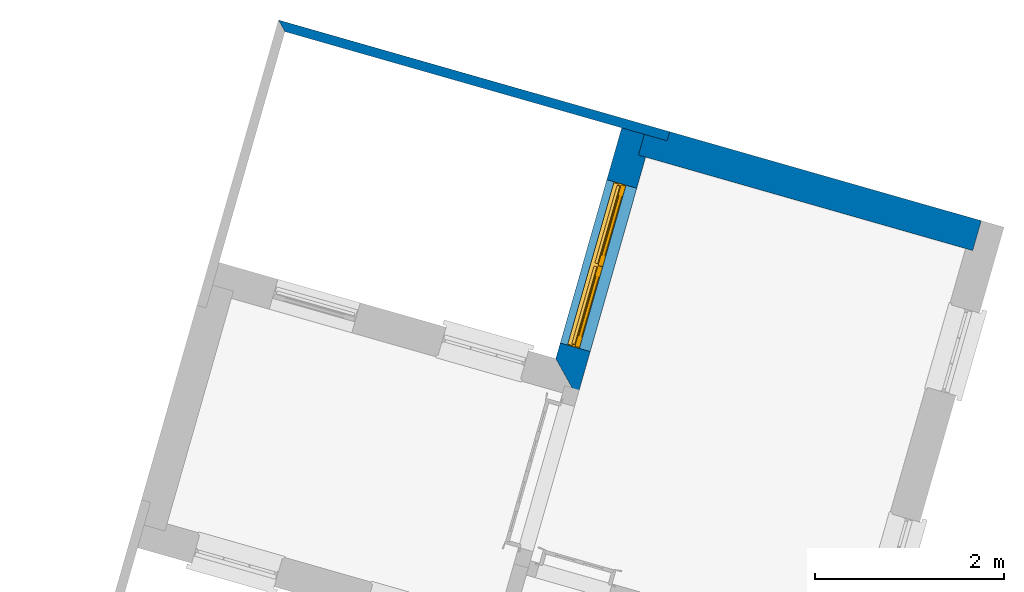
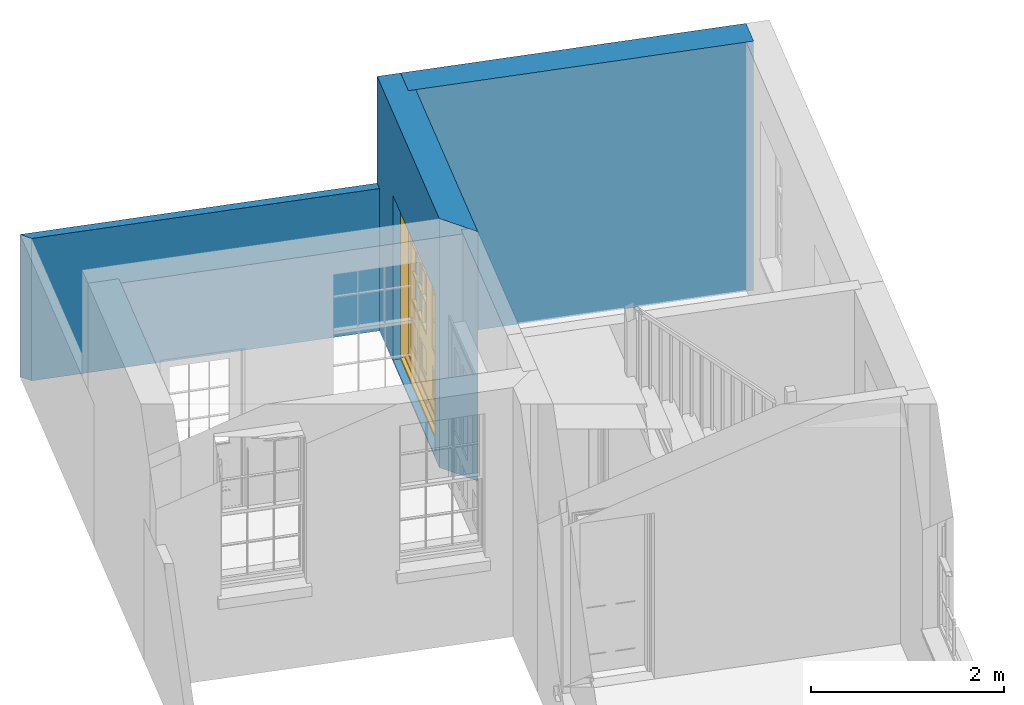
# One storey, part 7 of 7: 3 walls, 1 door, 1 opening.
"""IFC4 building model written with IfcOpenShell, lengths in metres."""

import ifcopenshell
import ifcopenshell.guid

model = None  # the IFC model being written
_history = None  # IfcOwnerHistory: only IFC2X3 demands one
_inside = {}  # id of a spatial element -> (the spatial element, [elements in it])
_under = {}  # id of a project, library or spatial element -> (it, [spatial elements below it])
_declared = {}  # id of a project -> (the project, [libraries it declares])
_typed = {}  # id of a type object -> (the type object, [elements of that type])
_made_of = {}  # id of a material, layer set ... -> (it, [elements and type objects made of it])


def new_model(schema):
    """Start an empty IFC model of exactly this schema.

    Asked for "IFC4X3", IfcOpenShell would pick the latest addendum, in which some entities
    have other attributes; the version numbers below select the first issue.
    IFC2X3 requires an IfcOwnerHistory on every rooted entity: one is made here for all.
    """
    global model, _history
    if schema == "IFC4X3":
        model = ifcopenshell.file(schema_version=(4, 3, 0, 0))
    else:
        model = ifcopenshell.file(schema=schema)
    _inside.clear()
    _under.clear()
    _declared.clear()
    _typed.clear()
    _made_of.clear()
    _history = None
    if model.schema == "IFC2X3":
        org = make("IfcOrganization", Name="unknown")
        user = make(
            "IfcPersonAndOrganization",
            ThePerson=make("IfcPerson", FamilyName="unknown"),
            TheOrganization=org,
        )
        app = make(
            "IfcApplication",
            ApplicationDeveloper=org,
            Version="unknown",
            ApplicationFullName="unknown",
            ApplicationIdentifier="unknown",
        )
        _history = make(
            "IfcOwnerHistory",
            OwningUser=user,
            OwningApplication=app,
            ChangeAction="ADDED",
            CreationDate=0,
        )
    return model


def make(cls, **values):
    """One entity of the class cls with the attributes given. An attribute that is None is left unset."""
    return model.create_entity(
        cls, **{name: value for name, value in values.items() if value is not None}
    )


def rooted(cls, **values):
    """An entity with a GlobalId (a new one), such as an element, a storey or a relation."""
    return make(cls, GlobalId=ifcopenshell.guid.new(), OwnerHistory=_history, **values)


def si_unit(unit_type, name, prefix=None):
    """IfcSIUnit, for example si_unit("LENGTHUNIT", "METRE", prefix="MILLI")."""
    return make("IfcSIUnit", UnitType=unit_type, Prefix=prefix, Name=name)


def assignment(units):
    """IfcUnitAssignment: the units of a project."""
    return None if units is None else make("IfcUnitAssignment", Units=units)


def point(xyz):
    """IfcCartesianPoint."""
    return None if xyz is None else make("IfcCartesianPoint", Coordinates=xyz)


def direction(xyz):
    """IfcDirection."""
    return None if xyz is None else make("IfcDirection", DirectionRatios=xyz)


def frame(location, z_axis=None, x_axis=None):
    """IfcAxis2Placement3D, a coordinate frame: its origin and axes. An axis left out is left unset."""
    return make(
        "IfcAxis2Placement3D",
        Location=point(location),
        Axis=direction(z_axis),
        RefDirection=direction(x_axis),
    )


def origin():
    """The frame at (0, 0, 0) with its axes left unset."""
    return frame((0.0, 0.0, 0.0))


def origin_with_axes():
    """The frame at (0, 0, 0) with the z axis (0, 0, 1) and the x axis (1, 0, 0) written out."""
    return frame((0.0, 0.0, 0.0), z_axis=(0.0, 0.0, 1.0), x_axis=(1.0, 0.0, 0.0))


def place(relative_to, where):
    """IfcLocalPlacement: puts the frame where relative to a parent placement (None: the world)."""
    return make(
        "IfcLocalPlacement", PlacementRelTo=relative_to, RelativePlacement=where
    )


def context(
    kind, dimensions, precision=None, world=None, true_north=None, identifier=None
):
    """IfcGeometricRepresentationContext, for example the 3D "Model" context."""
    return make(
        "IfcGeometricRepresentationContext",
        ContextIdentifier=identifier,
        ContextType=kind,
        CoordinateSpaceDimension=dimensions,
        Precision=precision,
        WorldCoordinateSystem=world,
        TrueNorth=true_north,
    )


def subcontext(parent, identifier, kind, view, scale=None):
    """IfcGeometricRepresentationSubContext, for example "Body" below "Model"."""
    return make(
        "IfcGeometricRepresentationSubContext",
        ContextIdentifier=identifier,
        ContextType=kind,
        ParentContext=parent,
        TargetScale=scale,
        TargetView=view,
    )


def project(units=None, contexts=None):
    """IfcProject with its units and contexts."""
    return rooted(
        "IfcProject",
        Name="project",
        RepresentationContexts=contexts,
        UnitsInContext=assignment(units),
    )


def spatial(cls, under=None, at=None, **own):
    """A site, building, storey or space (cls), placed at a placement, below another one or the project."""
    s = rooted(cls, ObjectPlacement=at, **own)
    if under is not None:
        _under.setdefault(under.id(), (under, []))[1].append(s)
    return s


def polyline(points):
    """IfcPolyline through the points."""
    return make("IfcPolyline", Points=[point(p) for p in points])


def outline(outer, holes=None, kind="AREA"):
    """IfcArbitraryClosedProfileDef: a profile drawn as a closed curve; with holes, ...WithVoids."""
    if holes is None:
        return make("IfcArbitraryClosedProfileDef", ProfileType=kind, OuterCurve=outer)
    return make(
        "IfcArbitraryProfileDefWithVoids",
        ProfileType=kind,
        OuterCurve=outer,
        InnerCurves=holes,
    )


def extrude(swept, where, along, depth):
    """IfcExtrudedAreaSolid: the profile swept, set in the frame where, extruded along a direction by depth."""
    return make(
        "IfcExtrudedAreaSolid",
        SweptArea=swept,
        Position=where,
        ExtrudedDirection=direction(along),
        Depth=depth,
    )


def faces_of(points, faces, orient=None, outer=None):
    """IfcFace entities. A face is a list of loops; a loop is a list of indices into points, from 0.

    orient and outer hold one flag for each loop. By default every Orientation is true, the
    first loop of a face is its IfcFaceOuterBound and the others are IfcFaceBound.
    """
    made = []
    for i, loops in enumerate(faces):
        bounds = []
        for j, loop in enumerate(loops):
            is_outer = j == 0 if outer is None else outer[i][j]
            bounds.append(
                make(
                    "IfcFaceOuterBound" if is_outer else "IfcFaceBound",
                    Bound=make("IfcPolyLoop", Polygon=[points[k] for k in loop]),
                    Orientation=True if orient is None else orient[i][j],
                )
            )
        made.append(make("IfcFace", Bounds=bounds))
    return made


def faceted_brep(points, faces, orient=None, outer=None, voids=None):
    """IfcFacetedBrep: a solid bounded by flat faces; with voids (closed shells), ...WithVoids."""
    shared = [point(p) for p in points]
    hull = make("IfcClosedShell", CfsFaces=faces_of(shared, faces, orient, outer))
    if voids is None:
        return make("IfcFacetedBrep", Outer=hull)
    return make(
        "IfcFacetedBrepWithVoids",
        Outer=hull,
        Voids=[
            make(cls, CfsFaces=faces_of(shared, fs, o, b)) for cls, fs, o, b in voids
        ],
    )


def shape(context_of_items, identifier, shape_type, items):
    """IfcShapeRepresentation: the items that make up one representation, for example the "Body"."""
    return make(
        "IfcShapeRepresentation",
        ContextOfItems=context_of_items,
        RepresentationIdentifier=identifier,
        RepresentationType=shape_type,
        Items=items,
    )


def source(mapping_origin, context_of_items, identifier, shape_type, items):
    """IfcRepresentationMap: a shape defined once, which mapped items show again and again."""
    return make(
        "IfcRepresentationMap",
        MappingOrigin=mapping_origin,
        MappedRepresentation=shape(context_of_items, identifier, shape_type, items),
    )


def transform(
    local_origin,
    x_axis=None,
    y_axis=None,
    z_axis=None,
    scale=None,
    scale2=None,
    scale3=None,
    uniform=True,
):
    """IfcCartesianTransformationOperator3D, or its non-uniform kind. x_axis, y_axis, z_axis: its Axis1, 2, 3."""
    if uniform:
        return make(
            "IfcCartesianTransformationOperator3D",
            Axis1=direction(x_axis),
            Axis2=direction(y_axis),
            LocalOrigin=point(local_origin),
            Scale=scale,
            Axis3=direction(z_axis),
        )
    return make(
        "IfcCartesianTransformationOperator3DnonUniform",
        Axis1=direction(x_axis),
        Axis2=direction(y_axis),
        LocalOrigin=point(local_origin),
        Scale=scale,
        Axis3=direction(z_axis),
        Scale2=scale2,
        Scale3=scale3,
    )


def mapped(mapping_source, mapping_target):
    """IfcMappedItem: shows the shape of a source again, moved by a transform."""
    return make(
        "IfcMappedItem", MappingSource=mapping_source, MappingTarget=mapping_target
    )


def material(Name=None, Category=None):
    """IfcMaterial."""
    return make("IfcMaterial", Name=Name, Category=Category)


def layer(
    of_material, thickness, ventilated=None, Name=None, Category=None, Priority=None
):
    """IfcMaterialLayer: one layer of a wall or slab, of a material (None: an air gap)."""
    return make(
        "IfcMaterialLayer",
        Material=of_material,
        LayerThickness=thickness,
        IsVentilated=ventilated,
        Name=Name,
        Category=Category,
        Priority=Priority,
    )


def layer_set(layers, Name=None):
    """IfcMaterialLayerSet."""
    return make("IfcMaterialLayerSet", MaterialLayers=layers, LayerSetName=Name)


def layer_usage(for_layer_set, set_direction, sense, offset, extent=None):
    """IfcMaterialLayerSetUsage: how a layer set lies in its element."""
    return make(
        "IfcMaterialLayerSetUsage",
        ForLayerSet=for_layer_set,
        LayerSetDirection=set_direction,
        DirectionSense=sense,
        OffsetFromReferenceLine=offset,
        ReferenceExtent=extent,
    )


def made_of(thing, what):
    """Note that an element or type object is made of a material, layer set ...; save() writes the relation."""
    if what is not None:
        _made_of.setdefault(what.id(), (what, []))[1].append(thing)
    return thing


def type_object(cls, material=None, **own):
    """A type object (cls), such as IfcWallType, which elements share."""
    return made_of(rooted(cls, **own), material)


def type_shapes(of_type, sources):
    """Give a type object the sources (RepresentationMaps) that its elements show as mapped items."""
    of_type.RepresentationMaps = sources


def element(
    cls,
    number,
    at=None,
    inside=None,
    cuts=None,
    type_object=None,
    material=None,
    context=None,
    identifier="Body",
    shape_type=None,
    held_by="IfcProductDefinitionShape",
    body=None,
    shapes=None,
    **own,
):
    """One element of the class cls, such as IfcWall. Its Tag is "e" and its number.

    at: its placement. inside: the storey or other place that contains it. cuts: it is an
    opening in that element (IfcRelVoidsElement). A single representation is given by context,
    identifier, shape_type and body (its items); several are given by shapes. held_by: the class
    of the entity that holds the representations. save() writes the other relations.
    """
    e = rooted(cls, Tag="e%d" % number, ObjectPlacement=at, **own)
    if body is not None:
        shapes = [shape(context, identifier, shape_type, body)]
    if shapes is not None:
        e.Representation = make(held_by, Representations=shapes)
    if inside is not None:
        _inside.setdefault(inside.id(), (inside, []))[1].append(e)
    if cuts is not None:
        rooted(
            "IfcRelVoidsElement", RelatingBuildingElement=cuts, RelatedOpeningElement=e
        )
    if type_object is not None:
        _typed.setdefault(type_object.id(), (type_object, []))[1].append(e)
    return made_of(e, material)


def fill(opening, filler):
    """IfcRelFillsElement: the door or window that sits in an opening."""
    return rooted(
        "IfcRelFillsElement",
        RelatingOpeningElement=opening,
        RelatedBuildingElement=filler,
    )


def aggregate(whole, parts):
    """IfcRelAggregates: a whole, such as a stair, and the parts it consists of."""
    return rooted("IfcRelAggregates", RelatingObject=whole, RelatedObjects=parts)


def save(model, path):
    """Write the relations noted so far, then the file.

    IfcRelAggregates (storeys below a building ...), IfcRelContainedInSpatialStructure (elements
    in a storey), IfcRelDefinesByType, IfcRelAssociatesMaterial and IfcRelDeclares: one each for
    every whole, place, type object, material and project.
    """
    for whole, parts in _under.values():
        aggregate(whole, parts)
    for where, things in _inside.values():
        rooted(
            "IfcRelContainedInSpatialStructure",
            RelatedElements=things,
            RelatingStructure=where,
        )
    for kind, things in _typed.values():
        rooted("IfcRelDefinesByType", RelatedObjects=things, RelatingType=kind)
    for what, things in _made_of.values():
        rooted("IfcRelAssociatesMaterial", RelatedObjects=things, RelatingMaterial=what)
    for by, libraries in _declared.values():
        rooted("IfcRelDeclares", RelatingContext=by, RelatedDefinitions=libraries)
    model.write(path)


model = new_model("IFC4")

# Units and contexts
model_context = context("Model", 3, world=origin_with_axes())
body_context = subcontext(model_context, "Body", "Model", "MODEL_VIEW")
ifc_project = project(units=[si_unit("PLANEANGLEUNIT", "RADIAN"), si_unit("MASSUNIT", "GRAM", prefix="KILO"), si_unit("FORCEUNIT", "NEWTON", prefix="KILO"), si_unit("LENGTHUNIT", "METRE"), si_unit("AREAUNIT", "SQUARE_METRE"), si_unit("VOLUMEUNIT", "CUBIC_METRE")], contexts=[model_context, model_context])

# Sites, building, storey
site_1_placement = place(None, origin_with_axes())
site_1 = spatial("IfcSite", under=ifc_project, at=site_1_placement, Name="Tamar")
site_2_placement = place(site_1_placement, origin_with_axes())
site_2 = spatial("IfcSite", under=site_1, at=site_2_placement, Name="Site plot-20", CompositionType="ELEMENT")
building_placement = place(None, origin_with_axes())
building = spatial("IfcBuilding", under=site_2, at=building_placement, Name="Building plot-20", CompositionType="ELEMENT")
storey_placement = place(None, frame((0.0, 0.0, 26.0), z_axis=(0.0, 0.0, 1.0), x_axis=(1.0, 0.0, 0.0)))
storey = spatial("IfcBuildingStorey", under=building, at=storey_placement, Name="plot-20 0", CompositionType="ELEMENT", Elevation=26.0)

# Wall, opening, door
ifc_material_1 = material(Name="Masonry")
ifc_layer_1 = layer(ifc_material_1, 0.33, ventilated=False)
ifc_layer_set_1 = layer_set([ifc_layer_1], Name="exterior_0.08_0.25")
ifc_layer_usage_1 = layer_usage(ifc_layer_set_1, "AXIS2", "POSITIVE", -0.25)
wall_type_1 = type_object("IfcWallType", Name="exterior_0.08_0.25", PredefinedType="SOLIDWALL", material=ifc_layer_set_1)
wall_1_placement = place(storey_placement, frame((278.852686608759, 293.884328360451, 0.0), z_axis=(0.0, 0.0, 1.0), x_axis=(-0.274568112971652, -0.961567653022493, 0.0)))
wall_1 = element("IfcWall", 1, at=wall_1_placement, inside=storey, type_object=wall_type_1, material=ifc_layer_usage_1, Name="exterior", context=body_context, shape_type="SweptSolid", body=[
    extrude(outline(polyline([(-0.249999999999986, 0.0799999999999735), (-0.249999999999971, -0.250000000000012), (2.39537764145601, -0.249999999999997), (2.7253776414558, 0.0800000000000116), (-0.249999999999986, 0.0799999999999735)])), origin_with_axes(), (0.0, 0.0, 1.0), 3.15),
])
opening_placement = place(wall_1_placement, frame((0.422688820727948, 0.0, 0.0199999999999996)))
opening = element("IfcOpeningElement", 2, at=opening_placement, cuts=wall_1, Name="My Opening", ObjectType="Opening", context=body_context, shape_type="SweptSolid", body=[
    extrude(outline(polyline([(0.0, -0.269999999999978), (1.79999999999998, -0.269999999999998), (1.80000000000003, 1.09999999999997), (5.19029264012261e-14, 1.09999999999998), (0.0, -0.269999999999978)])), origin_with_axes(), (0.0, 0.0, 1.0), 2.08),
])
door_type = type_object("IfcDoorType", Name="door_panelled_double", OperationType="SINGLE_SWING_LEFT", PredefinedType="NOTDEFINED")
shared_shape = source(origin(), body_context, "Body", "Brep", [
    faceted_brep([(0.545, 0.195, 0.265), (0.745, 0.195, 0.265), (0.745, 0.2, 0.265), (0.545, 0.2, 0.265), (0.745, 0.2, 0.58), (0.545, 0.2, 0.58), (0.545, 0.195, 0.58), (0.515, 0.19, 0.235), (0.775, 0.19, 0.235), (0.745, 0.195, 0.58), (0.515, 0.19, 0.61), (0.515, 0.185, 0.235), (0.775, 0.185, 0.235), (0.775, 0.19, 0.61), (0.515, 0.185, 0.61), (0.785, 0.185, 0.225), (0.505, 0.185, 0.225), (0.775, 0.185, 0.61), (0.505, 0.185, 0.62), (0.785, 0.185, 0.62), (0.505, 0.18, 0.225), (0.785, 0.18, 0.225), (0.505, 0.18, 0.62), (0.785, 0.18, 0.62), (0.883, 0.18, 0.075), (0.898, 0.18, 0.075), (0.405, 0.18, 0.62), (0.405, 0.18, 0.225), (0.027, 0.18, 0.075), (0.785, 0.18, 0.82), (0.125, 0.18, 0.82), (0.405, 0.185, 0.62), (0.405, 0.185, 0.225), (0.898, 0.18, 2.068), (0.027, 0.17, 0.075), (0.883, 0.17, 0.075), (0.125, 0.18, 0.225), (0.012, 0.18, 0.075), (0.785, 0.19, 0.82), (0.125, 0.19, 0.82), (0.125, 0.18, 0.62), (0.125, 0.185, 0.62), (0.395, 0.185, 0.61), (0.395, 0.185, 0.235), (0.125, 0.185, 0.225), (0.785, 0.18, 1.895), (0.027, 0.14, 0.045), (0.883, 0.14, 0.045), (0.558333, 0.19, 0.83), (0.351667, 0.19, 0.83), (0.125, 0.18, 1.895), (0.125, 0.19, 1.895), (0.785, 0.19, 1.895), (0.012, 0.18, 2.068), (0.135, 0.185, 0.61), (0.395, 0.19, 0.61), (0.395, 0.19, 0.235), (0.135, 0.185, 0.235), (0.027, 0.14, 0.027), (0.883, 0.14, 0.027), (0.568333, 0.19, 0.83), (0.558333, 0.22, 0.83), (0.351667, 0.22, 0.83), (0.341667, 0.19, 0.83), (0.135, 0.19, 1.185), (0.135, 0.19, 1.53), (0.775, 0.19, 1.53), (0.775, 0.19, 1.185), (0.135, 0.19, 0.61), (0.365, 0.195, 0.58), (0.365, 0.195, 0.265), (0.135, 0.19, 0.235), (0.568333, 0.19, 1.175), (0.558333, 0.19, 1.175), (0.775, 0.19, 0.83), (0.558333, 0.22, 1.175), (0.785, 0.22, 0.82), (0.125, 0.22, 0.82), (0.351667, 0.22, 1.175), (0.351667, 0.19, 1.175), (0.341667, 0.19, 1.175), (0.135, 0.19, 0.83), (0.135, 0.19, 1.175), (0.135, 0.22, 1.185), (0.135, 0.22, 1.53), (0.135, 0.19, 1.54), (0.351667, 0.19, 1.885), (0.558333, 0.19, 1.885), (0.775, 0.22, 1.53), (0.775, 0.22, 1.185), (0.775, 0.19, 1.175), (0.775, 0.19, 1.54), (0.165, 0.195, 0.58), (0.365, 0.2, 0.58), (0.365, 0.2, 0.265), (0.165, 0.195, 0.265), (0.568333, 0.22, 0.83), (0.568333, 0.22, 1.175), (0.568333, 0.19, 1.185), (0.558333, 0.19, 1.185), (0.775, 0.22, 0.83), (0.785, 0.23, 0.82), (0.125, 0.23, 0.82), (0.341667, 0.22, 0.83), (0.341667, 0.22, 1.175), (0.351667, 0.19, 1.185), (0.341667, 0.19, 1.185), (0.135, 0.22, 0.83), (0.341667, 0.22, 1.185), (0.125, 0.22, 1.895), (0.341667, 0.22, 1.53), (0.341667, 0.19, 1.53), (0.135, 0.19, 1.885), (0.341667, 0.19, 1.54), (0.341667, 0.19, 1.885), (0.558333, 0.22, 1.885), (0.351667, 0.22, 1.885), (0.568333, 0.19, 1.885), (0.785, 0.22, 1.895), (0.568333, 0.22, 1.185), (0.568333, 0.19, 1.53), (0.568333, 0.22, 1.53), (0.568333, 0.19, 1.54), (0.775, 0.19, 1.885), (0.165, 0.2, 0.58), (0.165, 0.2, 0.265), (0.775, 0.22, 1.175), (0.558333, 0.19, 1.53), (0.351667, 0.22, 1.185), (0.558333, 0.22, 1.185), (0.505, 0.23, 0.62), (0.405, 0.23, 0.62), (0.125, 0.23, 1.895), (0.785, 0.23, 1.895), (0.351667, 0.19, 1.53), (0.135, 0.22, 1.175), (0.135, 0.22, 1.54), (0.341667, 0.22, 1.54), (0.135, 0.22, 1.885), (0.351667, 0.19, 1.54), (0.558333, 0.22, 1.54), (0.558333, 0.19, 1.54), (0.351667, 0.22, 1.54), (0.775, 0.22, 1.54), (0.568333, 0.22, 1.54), (0.775, 0.22, 1.885), (0.558333, 0.22, 1.53), (0.405, 0.23, 0.225), (0.505, 0.23, 0.225), (0.125, 0.23, 0.62), (0.785, 0.23, 0.62), (0.012, 0.23, 2.068), (0.898, 0.23, 2.068), (0.351667, 0.22, 1.53), (0.341667, 0.22, 1.885), (0.568333, 0.22, 1.885), (0.405, 0.225, 0.225), (0.405, 0.225, 0.62), (0.505, 0.225, 0.62), (0.505, 0.225, 0.225), (0.898, 0.23, 0.027), (0.012, 0.23, 0.027), (0.125, 0.225, 0.62), (0.785, 0.225, 0.62), (0.395, 0.225, 0.235), (0.395, 0.225, 0.61), (0.125, 0.23, 0.225), (0.125, 0.225, 0.225), (0.515, 0.225, 0.61), (0.515, 0.225, 0.235), (0.785, 0.23, 0.225), (0.785, 0.225, 0.225), (0.135, 0.225, 0.61), (0.775, 0.225, 0.61), (0.135, 0.225, 0.235), (0.395, 0.22, 0.235), (0.395, 0.22, 0.61), (0.515, 0.22, 0.61), (0.515, 0.22, 0.235), (0.775, 0.225, 0.235), (0.135, 0.22, 0.61), (0.775, 0.22, 0.61), (0.135, 0.22, 0.235), (0.365, 0.215, 0.265), (0.365, 0.215, 0.58), (0.545, 0.215, 0.58), (0.545, 0.215, 0.265), (0.775, 0.22, 0.235), (0.165, 0.215, 0.58), (0.745, 0.215, 0.58), (0.165, 0.215, 0.265), (0.365, 0.21, 0.58), (0.365, 0.21, 0.265), (0.545, 0.21, 0.58), (0.545, 0.21, 0.265), (0.745, 0.215, 0.265), (0.165, 0.21, 0.58), (0.745, 0.21, 0.58), (0.165, 0.21, 0.265), (0.745, 0.21, 0.265), (1.775, 0.178, 0.025), (0.025, 0.178, 0.025), (0.025, 0.15, 0.025), (1.775, 0.15, 0.025), (1.79, 0.23, 0.025), (0.01, 0.23, 0.025), (1.79, 0.178, 0.025), (1.8, 0.23, 0.0), (0.0, 0.23, 0.0), (0.01, 0.178, 0.025), (1.79, 0.178, 2.07), (1.79, 0.23, 2.07), (1.775, 0.178, 2.055), (1.8, 0.23, 2.08), (0.01, 0.23, 2.07), (0.0, 0.23, 2.08), (0.01, 0.178, 2.07), (0.025, 0.178, 2.055), (0.0, 0.1, 2.08), (1.8, 0.1, 2.08), (0.01, 0.1, 2.07), (1.79, 0.1, 2.07), (0.01, 0.15, 2.07), (1.79, 0.15, 2.07), (0.0, 0.1, 0.0), (1.8, 0.1, 0.0), (0.01, 0.1, 0.025), (1.79, 0.1, 0.025), (0.01, 0.15, 0.025), (0.025, 0.15, 2.055), (1.79, 0.15, 0.025), (1.775, 0.15, 2.055), (0.898, 0.18, 0.027), (0.012, 0.18, 0.027), (0.883, 0.18, 0.027), (0.027, 0.18, 0.027), (1.435, 0.195, 0.265), (1.635, 0.195, 0.265), (1.635, 0.2, 0.265), (1.435, 0.2, 0.265), (1.635, 0.2, 0.58), (1.435, 0.2, 0.58), (1.435, 0.195, 0.58), (1.405, 0.19, 0.235), (1.665, 0.19, 0.235), (1.635, 0.195, 0.58), (1.405, 0.19, 0.61), (1.405, 0.185, 0.235), (1.665, 0.185, 0.235), (1.665, 0.19, 0.61), (1.405, 0.185, 0.61), (1.675, 0.185, 0.225), (1.395, 0.185, 0.225), (1.665, 0.185, 0.61), (1.395, 0.185, 0.62), (1.675, 0.185, 0.62), (1.395, 0.18, 0.225), (1.675, 0.18, 0.225), (1.395, 0.18, 0.62), (1.675, 0.18, 0.62), (1.773, 0.18, 0.075), (1.788, 0.18, 0.075), (1.295, 0.18, 0.62), (1.295, 0.18, 0.225), (0.917, 0.18, 0.075), (1.675, 0.18, 0.82), (1.015, 0.18, 0.82), (1.295, 0.185, 0.62), (1.295, 0.185, 0.225), (1.788, 0.18, 2.068), (0.917, 0.17, 0.075), (1.773, 0.17, 0.075), (1.015, 0.18, 0.225), (0.902, 0.18, 0.075), (1.675, 0.19, 0.82), (1.015, 0.19, 0.82), (1.015, 0.18, 0.62), (1.015, 0.185, 0.62), (1.285, 0.185, 0.61), (1.285, 0.185, 0.235), (1.015, 0.185, 0.225), (1.675, 0.18, 1.895), (0.917, 0.14, 0.045), (1.773, 0.14, 0.045), (1.448333, 0.19, 0.83), (1.241667, 0.19, 0.83), (1.015, 0.18, 1.895), (1.015, 0.19, 1.895), (1.675, 0.19, 1.895), (0.902, 0.18, 2.068), (1.025, 0.185, 0.61), (1.285, 0.19, 0.61), (1.285, 0.19, 0.235), (1.025, 0.185, 0.235), (0.917, 0.14, 0.027), (1.773, 0.14, 0.027), (1.458333, 0.19, 0.83), (1.448333, 0.22, 0.83), (1.241667, 0.22, 0.83), (1.231667, 0.19, 0.83), (1.025, 0.19, 1.185), (1.025, 0.19, 1.53), (1.665, 0.19, 1.53), (1.665, 0.19, 1.185), (1.025, 0.19, 0.61), (1.255, 0.195, 0.58), (1.255, 0.195, 0.265), (1.025, 0.19, 0.235), (1.458333, 0.19, 1.175), (1.448333, 0.19, 1.175), (1.665, 0.19, 0.83), (1.448333, 0.22, 1.175), (1.675, 0.22, 0.82), (1.015, 0.22, 0.82), (1.241667, 0.22, 1.175), (1.241667, 0.19, 1.175), (1.231667, 0.19, 1.175), (1.025, 0.19, 0.83), (1.025, 0.19, 1.175), (1.025, 0.22, 1.185), (1.025, 0.22, 1.53), (1.025, 0.19, 1.54), (1.241667, 0.19, 1.885), (1.448333, 0.19, 1.885), (1.665, 0.22, 1.53), (1.665, 0.22, 1.185), (1.665, 0.19, 1.175), (1.665, 0.19, 1.54), (1.055, 0.195, 0.58), (1.255, 0.2, 0.58), (1.255, 0.2, 0.265), (1.055, 0.195, 0.265), (1.458333, 0.22, 0.83), (1.458333, 0.22, 1.175), (1.458333, 0.19, 1.185), (1.448333, 0.19, 1.185), (1.665, 0.22, 0.83), (1.675, 0.23, 0.82), (1.015, 0.23, 0.82), (1.231667, 0.22, 0.83), (1.231667, 0.22, 1.175), (1.241667, 0.19, 1.185), (1.231667, 0.19, 1.185), (1.025, 0.22, 0.83), (1.231667, 0.22, 1.185), (1.015, 0.22, 1.895), (1.231667, 0.22, 1.53), (1.231667, 0.19, 1.53), (1.025, 0.19, 1.885), (1.231667, 0.19, 1.54), (1.231667, 0.19, 1.885), (1.448333, 0.22, 1.885), (1.241667, 0.22, 1.885), (1.458333, 0.19, 1.885), (1.675, 0.22, 1.895), (1.458333, 0.22, 1.185), (1.458333, 0.19, 1.53), (1.458333, 0.22, 1.53), (1.458333, 0.19, 1.54), (1.665, 0.19, 1.885), (1.055, 0.2, 0.58), (1.055, 0.2, 0.265), (1.665, 0.22, 1.175), (1.448333, 0.19, 1.53), (1.241667, 0.22, 1.185), (1.448333, 0.22, 1.185), (1.395, 0.23, 0.62), (1.295, 0.23, 0.62), (1.015, 0.23, 1.895), (1.675, 0.23, 1.895), (1.241667, 0.19, 1.53), (1.025, 0.22, 1.175), (1.025, 0.22, 1.54), (1.231667, 0.22, 1.54), (1.025, 0.22, 1.885), (1.241667, 0.19, 1.54), (1.448333, 0.22, 1.54), (1.448333, 0.19, 1.54), (1.241667, 0.22, 1.54), (1.665, 0.22, 1.54), (1.458333, 0.22, 1.54), (1.665, 0.22, 1.885), (1.448333, 0.22, 1.53), (1.295, 0.23, 0.225), (1.395, 0.23, 0.225), (1.015, 0.23, 0.62), (1.675, 0.23, 0.62), (0.902, 0.23, 2.068), (1.788, 0.23, 2.068), (1.241667, 0.22, 1.53), (1.231667, 0.22, 1.885), (1.458333, 0.22, 1.885), (1.295, 0.225, 0.225), (1.295, 0.225, 0.62), (1.395, 0.225, 0.62), (1.395, 0.225, 0.225), (1.788, 0.23, 0.027), (0.902, 0.23, 0.027), (1.015, 0.225, 0.62), (1.675, 0.225, 0.62), (1.285, 0.225, 0.235), (1.285, 0.225, 0.61), (1.015, 0.23, 0.225), (1.015, 0.225, 0.225), (1.405, 0.225, 0.61), (1.405, 0.225, 0.235), (1.675, 0.23, 0.225), (1.675, 0.225, 0.225), (1.025, 0.225, 0.61), (1.665, 0.225, 0.61), (1.025, 0.225, 0.235), (1.285, 0.22, 0.235), (1.285, 0.22, 0.61), (1.405, 0.22, 0.61), (1.405, 0.22, 0.235), (1.665, 0.225, 0.235), (1.025, 0.22, 0.61), (1.665, 0.22, 0.61), (1.025, 0.22, 0.235), (1.255, 0.215, 0.265), (1.255, 0.215, 0.58), (1.435, 0.215, 0.58), (1.435, 0.215, 0.265), (1.665, 0.22, 0.235), (1.055, 0.215, 0.58), (1.635, 0.215, 0.58), (1.055, 0.215, 0.265), (1.255, 0.21, 0.58), (1.255, 0.21, 0.265), (1.435, 0.21, 0.58), (1.435, 0.21, 0.265), (1.635, 0.215, 0.265), (1.055, 0.21, 0.58), (1.635, 0.21, 0.58), (1.055, 0.21, 0.265), (1.635, 0.21, 0.265), (1.788, 0.18, 0.027), (0.902, 0.18, 0.027), (1.773, 0.18, 0.027), (0.917, 0.18, 0.027)], [[[0, 1, 2, 3]], [[2, 4, 5, 3]], [[0, 3, 5, 6]], [[1, 0, 7, 8]], [[9, 4, 2, 1]], [[9, 6, 5, 4]], [[0, 6, 10, 7]], [[8, 7, 11, 12]], [[8, 13, 9, 1]], [[13, 10, 6, 9]], [[7, 10, 14, 11]], [[15, 12, 11, 16]], [[12, 17, 13, 8]], [[17, 14, 10, 13]], [[18, 16, 11, 14]], [[15, 19, 17, 12]], [[15, 16, 20, 21]], [[14, 17, 19, 18]], [[16, 18, 22, 20]], [[21, 23, 19, 15]], [[24, 25, 21, 20]], [[23, 22, 18, 19]], [[20, 22, 26, 27]], [[23, 21, 25]], [[28, 24, 20, 27]], [[22, 23, 29]], [[29, 30, 26, 22]], [[27, 26, 31, 32]], [[23, 25, 33, 29]], [[34, 35, 24, 28]], [[28, 27, 36, 37]], [[38, 39, 30, 29]], [[26, 30, 40]], [[26, 40, 41, 31]], [[42, 43, 32, 31]], [[32, 44, 36, 27]], [[33, 45, 29]], [[46, 47, 35, 34]], [[36, 40, 37]], [[39, 38, 48, 49]], [[50, 30, 39, 51]], [[29, 45, 52, 38]], [[53, 37, 40, 30]], [[44, 41, 40, 36]], [[31, 41, 54, 42]], [[43, 42, 55, 56]], [[57, 44, 32, 43]], [[50, 45, 33, 53]], [[47, 46, 58, 59]], [[60, 48, 38]], [[49, 48, 61, 62]], [[49, 63, 39]], [[50, 53, 30]], [[51, 39, 64, 65]], [[45, 50, 51, 52]], [[66, 67, 38, 52]], [[57, 54, 41, 44]], [[42, 54, 68, 55]], [[56, 55, 69, 70]], [[56, 71, 57, 43]], [[60, 72, 73, 48]], [[60, 38, 74]], [[48, 73, 75, 61]], [[76, 77, 62, 61]], [[62, 78, 79, 49]], [[49, 79, 80, 63]], [[63, 81, 39]], [[82, 64, 39]], [[65, 64, 83, 84]], [[85, 51, 65]], [[52, 51, 86, 87]], [[88, 89, 67, 66]], [[90, 38, 67]], [[91, 66, 52]], [[71, 68, 54, 57]], [[55, 68, 92, 69]], [[69, 93, 94, 70]], [[70, 95, 71, 56]], [[96, 97, 72, 60]], [[73, 72, 98, 99]], [[74, 38, 90]], [[100, 96, 60, 74]], [[75, 73, 79, 78]], [[61, 75, 97, 96]], [[101, 102, 77, 76]], [[77, 103, 62]], [[96, 76, 61]], [[103, 104, 78, 62]], [[80, 79, 105, 106]], [[63, 80, 104, 103]], [[81, 63, 103, 107]], [[81, 82, 39]], [[106, 64, 82, 80]], [[106, 108, 83, 64]], [[84, 83, 77, 109]], [[110, 111, 65, 84]], [[112, 51, 85]], [[113, 85, 65, 111]], [[114, 86, 51]], [[115, 87, 86, 116]], [[117, 52, 87]], [[118, 76, 89, 88]], [[119, 98, 67, 89]], [[120, 121, 88, 66]], [[67, 98, 72, 90]], [[91, 122, 120, 66]], [[91, 52, 123]], [[95, 92, 68, 71]], [[69, 92, 124, 93]], [[94, 93, 124, 125]], [[94, 125, 95, 70]], [[72, 97, 126, 90]], [[127, 99, 98, 120]], [[99, 105, 79, 73]], [[74, 90, 126, 100]], [[96, 100, 76]], [[128, 129, 75, 78]], [[97, 75, 129, 119]], [[130, 131, 102, 101]], [[109, 77, 102, 132]], [[133, 101, 76, 118]], [[77, 107, 103]], [[78, 104, 108, 128]], [[111, 106, 105, 134]], [[104, 80, 82, 135]], [[107, 135, 82, 81]], [[110, 108, 106, 111]], [[104, 135, 83, 108]], [[83, 135, 77]], [[136, 84, 109]], [[110, 84, 136, 137]], [[114, 51, 112]], [[85, 136, 138, 112]], [[113, 137, 136, 85]], [[111, 134, 139, 113]], [[86, 114, 113, 139]], [[140, 141, 87, 115]], [[139, 142, 116, 86]], [[109, 118, 115, 116]], [[117, 123, 52]], [[117, 87, 141, 122]], [[126, 89, 76]], [[143, 118, 88]], [[120, 98, 119, 121]], [[119, 89, 126, 97]], [[144, 143, 88, 121]], [[144, 122, 91, 143]], [[127, 120, 122, 141]], [[143, 91, 123, 145]], [[124, 92, 95, 125]], [[146, 129, 99, 127]], [[99, 129, 128, 105]], [[100, 126, 76]], [[121, 119, 129, 146]], [[147, 131, 130, 148]], [[131, 149, 102]], [[130, 101, 150]], [[102, 151, 132]], [[118, 109, 132, 133]], [[101, 133, 152]], [[107, 77, 135]], [[153, 128, 108, 110]], [[134, 105, 128, 153]], [[109, 138, 136]], [[153, 110, 137, 142]], [[154, 114, 112, 138]], [[137, 113, 114, 154]], [[141, 139, 134, 127]], [[141, 140, 142, 139]], [[144, 140, 115, 155]], [[142, 137, 154, 116]], [[155, 115, 118]], [[116, 154, 109]], [[117, 155, 145, 123]], [[122, 144, 155, 117]], [[143, 145, 118]], [[121, 146, 140, 144]], [[146, 127, 134, 153]], [[156, 157, 131, 147]], [[148, 130, 158, 159]], [[148, 160, 161, 147]], [[157, 162, 149, 131]], [[161, 151, 102, 149]], [[101, 152, 160, 150]], [[163, 158, 130, 150]], [[151, 152, 133, 132]], [[154, 138, 109]], [[142, 140, 146, 153]], [[145, 155, 118]], [[157, 156, 164, 165]], [[147, 166, 167, 156]], [[168, 169, 159, 158]], [[170, 148, 159, 171]], [[148, 170, 160]], [[166, 147, 161]], [[172, 162, 157, 165]], [[166, 149, 162, 167]], [[166, 161, 149]], [[150, 160, 170]], [[163, 173, 168, 158]], [[171, 163, 150, 170]], [[174, 164, 156, 167]], [[175, 176, 165, 164]], [[169, 168, 177, 178]], [[171, 159, 169, 179]], [[167, 162, 172, 174]], [[176, 180, 172, 165]], [[179, 173, 163, 171]], [[181, 177, 168, 173]], [[164, 174, 182, 175]], [[183, 184, 176, 175]], [[178, 177, 185, 186]], [[179, 169, 178, 187]], [[174, 172, 180, 182]], [[184, 188, 180, 176]], [[187, 181, 173, 179]], [[189, 185, 177, 181]], [[175, 182, 190, 183]], [[191, 184, 183, 192]], [[185, 193, 194, 186]], [[187, 178, 186, 195]], [[182, 180, 188, 190]], [[191, 196, 188, 184]], [[195, 189, 181, 187]], [[197, 193, 185, 189]], [[183, 190, 198, 192]], [[198, 196, 191, 192]], [[194, 193, 197, 199]], [[195, 186, 194, 199]], [[188, 196, 198, 190]], [[197, 189, 195, 199]], [[200, 201, 202, 203]], [[201, 200, 204, 205]], [[206, 204, 200]], [[204, 207, 208, 205]], [[209, 201, 205]], [[210, 211, 204, 206]], [[206, 200, 212, 210]], [[211, 213, 207, 204]], [[214, 205, 208, 215]], [[216, 217, 201, 209]], [[205, 214, 216, 209]], [[216, 214, 211, 210]], [[210, 212, 217, 216]], [[214, 215, 213, 211]], [[218, 219, 213, 215]], [[219, 218, 220, 221]], [[221, 220, 222, 223]], [[215, 208, 224, 218]], [[225, 224, 208, 207]], [[224, 226, 220, 218]], [[224, 225, 227, 226]], [[219, 225, 207, 213]], [[228, 222, 220, 226]], [[219, 221, 227, 225]], [[226, 227, 203, 202]], [[202, 229, 222, 228]], [[228, 226, 202]], [[227, 221, 223, 230]], [[230, 203, 227]], [[217, 229, 202, 201]], [[231, 223, 222, 229]], [[230, 223, 231, 203]], [[231, 229, 217, 212]], [[212, 200, 203, 231]], [[33, 152, 151, 53]], [[25, 160, 152, 33]], [[161, 37, 53, 151]], [[232, 160, 25]], [[161, 233, 37]], [[160, 232, 234]], [[24, 234, 232, 25]], [[233, 161, 235]], [[37, 233, 235, 28]], [[161, 160, 234, 235]], [[35, 47, 234, 24]], [[28, 235, 46, 34]], [[58, 235, 234, 59]], [[59, 234, 47]], [[58, 46, 235]], [[236, 237, 238, 239]], [[238, 240, 241, 239]], [[236, 239, 241, 242]], [[237, 236, 243, 244]], [[245, 240, 238, 237]], [[245, 242, 241, 240]], [[236, 242, 246, 243]], [[244, 243, 247, 248]], [[244, 249, 245, 237]], [[249, 246, 242, 245]], [[243, 246, 250, 247]], [[251, 248, 247, 252]], [[248, 253, 249, 244]], [[253, 250, 246, 249]], [[254, 252, 247, 250]], [[251, 255, 253, 248]], [[251, 252, 256, 257]], [[250, 253, 255, 254]], [[252, 254, 258, 256]], [[257, 259, 255, 251]], [[260, 261, 257, 256]], [[259, 258, 254, 255]], [[256, 258, 262, 263]], [[259, 257, 261]], [[264, 260, 256, 263]], [[258, 259, 265]], [[265, 266, 262, 258]], [[263, 262, 267, 268]], [[259, 261, 269, 265]], [[270, 271, 260, 264]], [[264, 263, 272, 273]], [[274, 275, 266, 265]], [[262, 266, 276]], [[262, 276, 277, 267]], [[278, 279, 268, 267]], [[268, 280, 272, 263]], [[269, 281, 265]], [[282, 283, 271, 270]], [[272, 276, 273]], [[275, 274, 284, 285]], [[286, 266, 275, 287]], [[265, 281, 288, 274]], [[289, 273, 276, 266]], [[280, 277, 276, 272]], [[267, 277, 290, 278]], [[279, 278, 291, 292]], [[293, 280, 268, 279]], [[286, 281, 269, 289]], [[283, 282, 294, 295]], [[296, 284, 274]], [[285, 284, 297, 298]], [[285, 299, 275]], [[286, 289, 266]], [[287, 275, 300, 301]], [[281, 286, 287, 288]], [[302, 303, 274, 288]], [[293, 290, 277, 280]], [[278, 290, 304, 291]], [[292, 291, 305, 306]], [[292, 307, 293, 279]], [[296, 308, 309, 284]], [[296, 274, 310]], [[284, 309, 311, 297]], [[312, 313, 298, 297]], [[298, 314, 315, 285]], [[285, 315, 316, 299]], [[299, 317, 275]], [[318, 300, 275]], [[301, 300, 319, 320]], [[321, 287, 301]], [[288, 287, 322, 323]], [[324, 325, 303, 302]], [[326, 274, 303]], [[327, 302, 288]], [[307, 304, 290, 293]], [[291, 304, 328, 305]], [[305, 329, 330, 306]], [[306, 331, 307, 292]], [[332, 333, 308, 296]], [[309, 308, 334, 335]], [[310, 274, 326]], [[336, 332, 296, 310]], [[311, 309, 315, 314]], [[297, 311, 333, 332]], [[337, 338, 313, 312]], [[313, 339, 298]], [[332, 312, 297]], [[339, 340, 314, 298]], [[316, 315, 341, 342]], [[299, 316, 340, 339]], [[317, 299, 339, 343]], [[317, 318, 275]], [[342, 300, 318, 316]], [[342, 344, 319, 300]], [[320, 319, 313, 345]], [[346, 347, 301, 320]], [[348, 287, 321]], [[349, 321, 301, 347]], [[350, 322, 287]], [[351, 323, 322, 352]], [[353, 288, 323]], [[354, 312, 325, 324]], [[355, 334, 303, 325]], [[356, 357, 324, 302]], [[303, 334, 308, 326]], [[327, 358, 356, 302]], [[327, 288, 359]], [[331, 328, 304, 307]], [[305, 328, 360, 329]], [[330, 329, 360, 361]], [[330, 361, 331, 306]], [[308, 333, 362, 326]], [[363, 335, 334, 356]], [[335, 341, 315, 309]], [[310, 326, 362, 336]], [[332, 336, 312]], [[364, 365, 311, 314]], [[333, 311, 365, 355]], [[366, 367, 338, 337]], [[345, 313, 338, 368]], [[369, 337, 312, 354]], [[313, 343, 339]], [[314, 340, 344, 364]], [[347, 342, 341, 370]], [[340, 316, 318, 371]], [[343, 371, 318, 317]], [[346, 344, 342, 347]], [[340, 371, 319, 344]], [[319, 371, 313]], [[372, 320, 345]], [[346, 320, 372, 373]], [[350, 287, 348]], [[321, 372, 374, 348]], [[349, 373, 372, 321]], [[347, 370, 375, 349]], [[322, 350, 349, 375]], [[376, 377, 323, 351]], [[375, 378, 352, 322]], [[345, 354, 351, 352]], [[353, 359, 288]], [[353, 323, 377, 358]], [[362, 325, 312]], [[379, 354, 324]], [[356, 334, 355, 357]], [[355, 325, 362, 333]], [[380, 379, 324, 357]], [[380, 358, 327, 379]], [[363, 356, 358, 377]], [[379, 327, 359, 381]], [[360, 328, 331, 361]], [[382, 365, 335, 363]], [[335, 365, 364, 341]], [[336, 362, 312]], [[357, 355, 365, 382]], [[383, 367, 366, 384]], [[367, 385, 338]], [[366, 337, 386]], [[338, 387, 368]], [[354, 345, 368, 369]], [[337, 369, 388]], [[343, 313, 371]], [[389, 364, 344, 346]], [[370, 341, 364, 389]], [[345, 374, 372]], [[389, 346, 373, 378]], [[390, 350, 348, 374]], [[373, 349, 350, 390]], [[377, 375, 370, 363]], [[377, 376, 378, 375]], [[380, 376, 351, 391]], [[378, 373, 390, 352]], [[391, 351, 354]], [[352, 390, 345]], [[353, 391, 381, 359]], [[358, 380, 391, 353]], [[379, 381, 354]], [[357, 382, 376, 380]], [[382, 363, 370, 389]], [[392, 393, 367, 383]], [[384, 366, 394, 395]], [[384, 396, 397, 383]], [[393, 398, 385, 367]], [[397, 387, 338, 385]], [[337, 388, 396, 386]], [[399, 394, 366, 386]], [[387, 388, 369, 368]], [[390, 374, 345]], [[378, 376, 382, 389]], [[381, 391, 354]], [[393, 392, 400, 401]], [[383, 402, 403, 392]], [[404, 405, 395, 394]], [[406, 384, 395, 407]], [[384, 406, 396]], [[402, 383, 397]], [[408, 398, 393, 401]], [[402, 385, 398, 403]], [[402, 397, 385]], [[386, 396, 406]], [[399, 409, 404, 394]], [[407, 399, 386, 406]], [[410, 400, 392, 403]], [[411, 412, 401, 400]], [[405, 404, 413, 414]], [[407, 395, 405, 415]], [[403, 398, 408, 410]], [[412, 416, 408, 401]], [[415, 409, 399, 407]], [[417, 413, 404, 409]], [[400, 410, 418, 411]], [[419, 420, 412, 411]], [[414, 413, 421, 422]], [[415, 405, 414, 423]], [[410, 408, 416, 418]], [[420, 424, 416, 412]], [[423, 417, 409, 415]], [[425, 421, 413, 417]], [[411, 418, 426, 419]], [[427, 420, 419, 428]], [[421, 429, 430, 422]], [[423, 414, 422, 431]], [[418, 416, 424, 426]], [[427, 432, 424, 420]], [[431, 425, 417, 423]], [[433, 429, 421, 425]], [[419, 426, 434, 428]], [[434, 432, 427, 428]], [[430, 429, 433, 435]], [[431, 422, 430, 435]], [[424, 432, 434, 426]], [[433, 425, 431, 435]], [[269, 388, 387, 289]], [[261, 396, 388, 269]], [[397, 273, 289, 387]], [[436, 396, 261]], [[397, 437, 273]], [[396, 436, 438]], [[260, 438, 436, 261]], [[437, 397, 439]], [[273, 437, 439, 264]], [[397, 396, 438, 439]], [[271, 283, 438, 260]], [[264, 439, 282, 270]], [[294, 439, 438, 295]], [[295, 438, 283]], [[294, 282, 439]]]),
])
type_shapes(door_type, [shared_shape])
door_placement = place(storey_placement, frame((278.477006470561, 293.552017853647, 0.0199999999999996), z_axis=(0.0, 0.0, 1.0), x_axis=(-0.494222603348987, -1.73082177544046, 0.0)))
door = element("IfcDoor", 3, at=door_placement, inside=storey, type_object=door_type, Name="living outside door", OverallHeight=2.08, OverallWidth=1.8, context=body_context, shape_type="MappedRepresentation", body=[
    mapped(shared_shape, transform((0.0, 0.0, 0.0), scale=1.0)),
])
fill(opening, door)

# Walls
ifc_material_2 = material(Name="Masonry")
ifc_layer_2 = layer(ifc_material_2, 0.33, ventilated=False)
ifc_layer_set_2 = layer_set([ifc_layer_2], Name="party_0.08_0.25")
ifc_layer_usage_2 = layer_usage(ifc_layer_set_2, "AXIS2", "POSITIVE", -0.25)
wall_type_2 = type_object("IfcWallType", Name="party_0.08_0.25", PredefinedType="SOLIDWALL", material=ifc_layer_set_2)
wall_2_placement = place(storey_placement, frame((282.397764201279, 292.872059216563, 0.0), z_axis=(0.0, 0.0, 1.0), x_axis=(-0.961567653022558, 0.274568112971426, 0.0)))
element("IfcWall", 4, at=wall_2_placement, inside=storey, type_object=wall_type_2, material=ifc_layer_usage_2, Name="party", context=body_context, shape_type="SweptSolid", body=[
    extrude(outline(polyline([(2.50515300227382e-14, 0.079999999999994), (1.63910976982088e-14, -0.249999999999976), (3.6867687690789, -0.249999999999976), (3.68676876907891, 0.0799999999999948), (2.50515300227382e-14, 0.079999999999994)])), origin_with_axes(), (0.0, 0.0, 1.0), 3.15),
])
ifc_material_3 = material(Name="Masonry")
ifc_layer_3 = layer(ifc_material_3, 0.1, ventilated=False)
ifc_layer_set_3 = layer_set([ifc_layer_3], Name="fence_-0.15_0.25")
ifc_layer_usage_3 = layer_usage(ifc_layer_set_3, "AXIS2", "POSITIVE", -0.25)
wall_type_3 = type_object("IfcWallType", Name="fence_-0.15_0.25", PredefinedType="SOLIDWALL", material=ifc_layer_set_3)
wall_3_placement = place(storey_placement, frame((278.852686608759, 293.884328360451, 0.0), z_axis=(0.0, 0.0, 1.0), x_axis=(-0.961567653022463, 0.274568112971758, 0.0)))
element("IfcWall", 5, at=wall_3_placement, inside=storey, type_object=wall_type_3, material=ifc_layer_usage_3, Name="fence", context=body_context, shape_type="SweptSolid", body=[
    extrude(outline(polyline([(-0.250000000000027, -0.150000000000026), (-0.250000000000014, -0.250000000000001), (4.06323123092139, -0.249999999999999), (3.9632312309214, -0.150000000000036), (-0.250000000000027, -0.150000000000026)])), origin_with_axes(), (0.0, 0.0, 1.0), 1.8),
])

save(model, "model.ifc")
